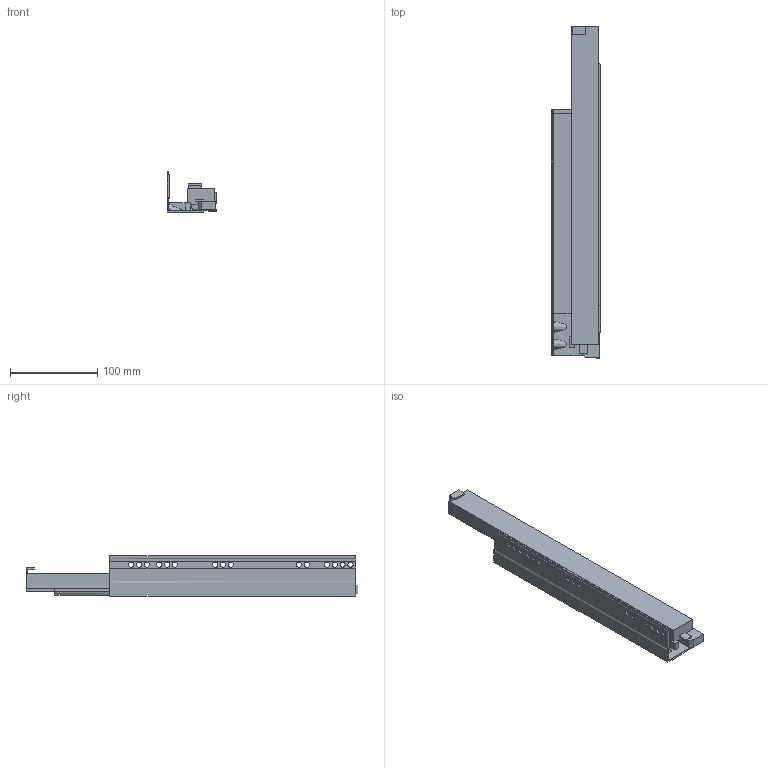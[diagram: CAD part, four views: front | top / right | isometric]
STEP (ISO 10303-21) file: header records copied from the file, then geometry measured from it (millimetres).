
FILE_DESCRIPTION (( 'STEP AP214' ), '1' );
FILE_NAME ('_IMOS_Dynapro_Softclose_D514_NL_380_LI.step', '2010-07-16T06:01:00', ( 'grass' ), ( '' ), 'SwSTEP 2.0', 'SolidWorks 2009', '' );
FILE_SCHEMA (( 'AUTOMOTIVE_DESIGN' ));
Length unit declared in the file: millimetre
Products named in the file (1): _IMOS_Dynapro_Softclose_D514_NL_380_LI
Bounding box: 57.08 x 380.07 x 47.86 mm (x, y, z)
Volume: 341406.4 mm3; surface area: 112380.4 mm2
Topology: 1 solids, 1 shells, 113 faces, 388 edges, 273 vertices
Faces by surface type: plane 76, cylinder 30, bspline 7
Entity records: 5014 total; most frequent: CARTESIAN_POINT 1489, ORIENTED_EDGE 768, DIRECTION 676, EDGE_CURVE 384, LINE 300, VECTOR 300, VERTEX_POINT 273, AXIS2_PLACEMENT_3D 188
